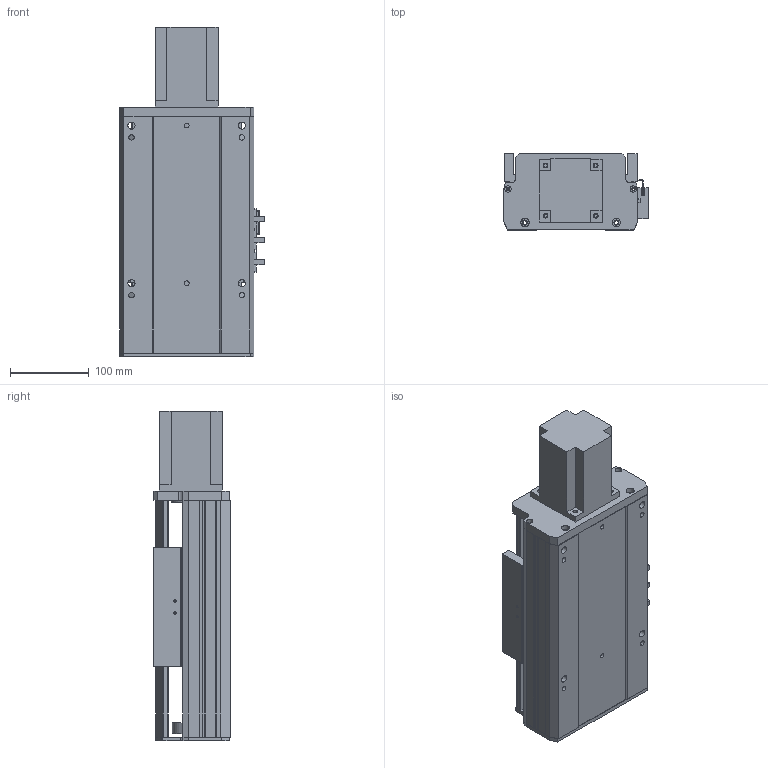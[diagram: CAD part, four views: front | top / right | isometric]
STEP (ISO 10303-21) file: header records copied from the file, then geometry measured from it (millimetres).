
FILE_DESCRIPTION (( 'STEP AP203' ), '1' );
FILE_NAME ('Y170-D10-S50-BD-P750W.STEP', '2020-01-22T03:44:00', ( '微软用户' ), ( '微软中国' ), 'SwSTEP 2.0', 'SolidWorks 2017', '' );
FILE_SCHEMA (( 'CONFIG_CONTROL_DESIGN' ));
Length unit declared in the file: millimetre
Products named in the file (11): Y170-萇儂楊擘啣--; 135-盓傅釱-FK15; 侂狟750W; Y170-6303; Y170耜裔--準---; Y170-陔遴奻裔-BD; YD-Y100-135-新外置传感挡片(通用）; Y170--雄赽釱-梓--; Y100-135俋离換覜ん; Y170-D10-S50-BD-P750W; 170--掛极-BD
Assembly tree (12 placements, depth 2):
  Y170-D10-S50-BD-P750W
    YD-Y100-135-新外置传感挡片(通用）
    Y100-135俋离換覜ん  x3
    170--掛极-BD
    Y170-萇儂楊擘啣--
    135-盓傅釱-FK15
    侂狟750W
    Y170-6303
    Y170耜裔--準---
    Y170-陔遴奻裔-BD
    Y170--雄赽釱-梓--
Bounding box: 183.5 x 97 x 418.5 mm (x, y, z)
Volume: 2339145.4 mm3; surface area: 653067.8 mm2
Topology: 12 solids, 12 shells, 774 faces, 2127 edges, 1408 vertices
Faces by surface type: plane 390, cylinder 382, torus 2
Entity records: 24472 total; most frequent: DIRECTION 4139, CARTESIAN_POINT 4118, ORIENTED_EDGE 3918, EDGE_CURVE 1959, AXIS2_PLACEMENT_3D 1477, VERTEX_POINT 1296, LINE 1185, VECTOR 1185
